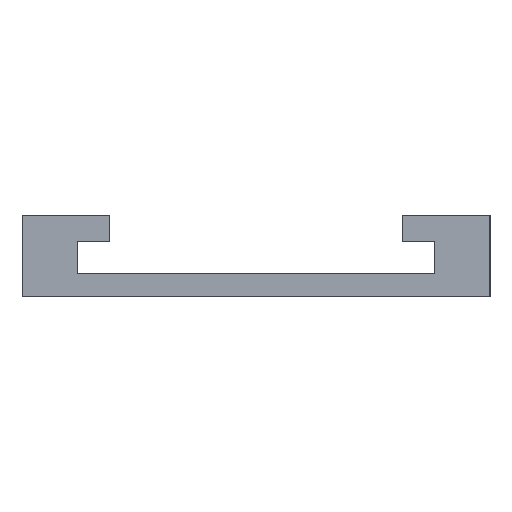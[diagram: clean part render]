
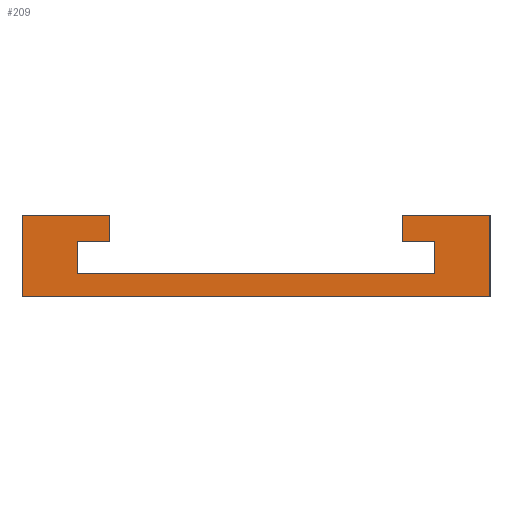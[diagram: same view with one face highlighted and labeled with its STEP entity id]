
A CAD part, left-side view. The second image highlights one B-rep face of the part: STEP entity #209.
In plain terms, the highlighted planar face has unit normal (-1, 0, 0).
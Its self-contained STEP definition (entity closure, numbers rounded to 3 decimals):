
#3 = VECTOR ( 'NONE', #466, 1000. ) ;
#4 = VECTOR ( 'NONE', #459, 1000. ) ;
#11 = DIRECTION ( 'NONE',  ( 0., 1., 0. ) ) ;
#26 = ORIENTED_EDGE ( 'NONE', *, *, #54, .F. ) ;
#27 = CARTESIAN_POINT ( 'NONE',  ( 0., 40., 0. ) ) ;
#39 = CARTESIAN_POINT ( 'NONE',  ( 0., -40., 0. ) ) ;
#54 = EDGE_CURVE ( 'NONE', #286, #135, #377, .T. ) ;
#59 = CARTESIAN_POINT ( 'NONE',  ( 0., -30.5, 4. ) ) ;
#64 = CARTESIAN_POINT ( 'NONE',  ( 0., 30.5, 9.5 ) ) ;
#73 = VERTEX_POINT ( 'NONE', #244 ) ;
#77 = CARTESIAN_POINT ( 'NONE',  ( 0., -40., 14. ) ) ;
#80 = AXIS2_PLACEMENT_3D ( 'NONE', #359, #392, #425 ) ;
#93 = LINE ( 'NONE', #216, #458 ) ;
#99 = LINE ( 'NONE', #180, #338 ) ;
#101 = DIRECTION ( 'NONE',  ( 0., 0., 1. ) ) ;
#104 = EDGE_CURVE ( 'NONE', #256, #286, #99, .T. ) ;
#108 = ORIENTED_EDGE ( 'NONE', *, *, #332, .F. ) ;
#112 = LINE ( 'NONE', #367, #355 ) ;
#120 = ORIENTED_EDGE ( 'NONE', *, *, #430, .F. ) ;
#124 = CARTESIAN_POINT ( 'NONE',  ( 0., 40., 14. ) ) ;
#125 = CARTESIAN_POINT ( 'NONE',  ( 0., -40., 0. ) ) ;
#135 = VERTEX_POINT ( 'NONE', #313 ) ;
#144 = CARTESIAN_POINT ( 'NONE',  ( 0., -25., 14. ) ) ;
#150 = VERTEX_POINT ( 'NONE', #144 ) ;
#152 = VECTOR ( 'NONE', #101, 1000. ) ;
#155 = CARTESIAN_POINT ( 'NONE',  ( 0., 40., 0. ) ) ;
#157 = CARTESIAN_POINT ( 'NONE',  ( 0., -25., 14. ) ) ;
#159 = CARTESIAN_POINT ( 'NONE',  ( 0., -30.5, 9.5 ) ) ;
#160 = EDGE_LOOP ( 'NONE', ( #306, #442, #108, #448, #217, #399, #26, #174, #333, #429, #120, #413 ) ) ;
#162 = VERTEX_POINT ( 'NONE', #248 ) ;
#174 = ORIENTED_EDGE ( 'NONE', *, *, #104, .F. ) ;
#177 = CARTESIAN_POINT ( 'NONE',  ( 0., 40., 14. ) ) ;
#178 = VERTEX_POINT ( 'NONE', #64 ) ;
#180 = CARTESIAN_POINT ( 'NONE',  ( 0., 30.5, 4. ) ) ;
#185 = EDGE_CURVE ( 'NONE', #357, #353, #363, .T. ) ;
#188 = DIRECTION ( 'NONE',  ( 0., 0., -1. ) ) ;
#190 = LINE ( 'NONE', #177, #4 ) ;
#192 = DIRECTION ( 'NONE',  ( 0., -1., 0. ) ) ;
#196 = LINE ( 'NONE', #268, #435 ) ;
#198 = VECTOR ( 'NONE', #207, 1000. ) ;
#204 = EDGE_CURVE ( 'NONE', #353, #73, #190, .T. ) ;
#207 = DIRECTION ( 'NONE',  ( 0., 0., 1. ) ) ;
#208 = LINE ( 'NONE', #226, #3 ) ;
#209 = ADVANCED_FACE ( 'NONE', ( #383 ), #309, .F. ) ;
#214 = EDGE_CURVE ( 'NONE', #162, #178, #93, .T. ) ;
#216 = CARTESIAN_POINT ( 'NONE',  ( 0., 25., 9.5 ) ) ;
#217 = ORIENTED_EDGE ( 'NONE', *, *, #314, .F. ) ;
#226 = CARTESIAN_POINT ( 'NONE',  ( 0., 30.5, 9.5 ) ) ;
#244 = CARTESIAN_POINT ( 'NONE',  ( 0., 25., 14. ) ) ;
#246 = VERTEX_POINT ( 'NONE', #465 ) ;
#248 = CARTESIAN_POINT ( 'NONE',  ( 0., 25., 9.5 ) ) ;
#250 = DIRECTION ( 'NONE',  ( 0., -1., 0. ) ) ;
#251 = EDGE_CURVE ( 'NONE', #419, #357, #263, .T. ) ;
#256 = VERTEX_POINT ( 'NONE', #396 ) ;
#258 = VERTEX_POINT ( 'NONE', #77 ) ;
#260 = CARTESIAN_POINT ( 'NONE',  ( 0., -30.5, 4. ) ) ;
#261 = DIRECTION ( 'NONE',  ( 0., 1., 0. ) ) ;
#263 = LINE ( 'NONE', #39, #457 ) ;
#265 = CARTESIAN_POINT ( 'NONE',  ( 0., 25., 14. ) ) ;
#268 = CARTESIAN_POINT ( 'NONE',  ( 0., -40., 14. ) ) ;
#286 = VERTEX_POINT ( 'NONE', #260 ) ;
#294 = EDGE_CURVE ( 'NONE', #178, #256, #208, .T. ) ;
#306 = ORIENTED_EDGE ( 'NONE', *, *, #185, .F. ) ;
#309 = PLANE ( 'NONE',  #80 ) ;
#313 = CARTESIAN_POINT ( 'NONE',  ( 0., -30.5, 9.5 ) ) ;
#314 = EDGE_CURVE ( 'NONE', #246, #150, #112, .T. ) ;
#322 = VECTOR ( 'NONE', #11, 1000. ) ;
#331 = DIRECTION ( 'NONE',  ( 0., 0., -1. ) ) ;
#332 = EDGE_CURVE ( 'NONE', #258, #419, #196, .T. ) ;
#333 = ORIENTED_EDGE ( 'NONE', *, *, #294, .F. ) ;
#338 = VECTOR ( 'NONE', #250, 1000. ) ;
#342 = VECTOR ( 'NONE', #192, 1000. ) ;
#353 = VERTEX_POINT ( 'NONE', #124 ) ;
#355 = VECTOR ( 'NONE', #434, 1000. ) ;
#357 = VERTEX_POINT ( 'NONE', #155 ) ;
#359 = CARTESIAN_POINT ( 'NONE',  ( 0., 0., 0. ) ) ;
#363 = LINE ( 'NONE', #27, #152 ) ;
#367 = CARTESIAN_POINT ( 'NONE',  ( 0., -25., 9.5 ) ) ;
#368 = LINE ( 'NONE', #265, #382 ) ;
#377 = LINE ( 'NONE', #59, #198 ) ;
#382 = VECTOR ( 'NONE', #331, 1000. ) ;
#383 = FACE_OUTER_BOUND ( 'NONE', #160, .T. ) ;
#392 = DIRECTION ( 'NONE',  ( 1., 0., 0. ) ) ;
#396 = CARTESIAN_POINT ( 'NONE',  ( 0., 30.5, 4. ) ) ;
#399 = ORIENTED_EDGE ( 'NONE', *, *, #455, .F. ) ;
#404 = LINE ( 'NONE', #157, #342 ) ;
#409 = EDGE_CURVE ( 'NONE', #150, #258, #404, .T. ) ;
#412 = LINE ( 'NONE', #159, #322 ) ;
#413 = ORIENTED_EDGE ( 'NONE', *, *, #204, .F. ) ;
#419 = VERTEX_POINT ( 'NONE', #125 ) ;
#425 = DIRECTION ( 'NONE',  ( 0., 0., -1. ) ) ;
#429 = ORIENTED_EDGE ( 'NONE', *, *, #214, .F. ) ;
#430 = EDGE_CURVE ( 'NONE', #73, #162, #368, .T. ) ;
#434 = DIRECTION ( 'NONE',  ( 0., 0., 1. ) ) ;
#435 = VECTOR ( 'NONE', #188, 1000. ) ;
#442 = ORIENTED_EDGE ( 'NONE', *, *, #251, .F. ) ;
#448 = ORIENTED_EDGE ( 'NONE', *, *, #409, .F. ) ;
#455 = EDGE_CURVE ( 'NONE', #135, #246, #412, .T. ) ;
#456 = DIRECTION ( 'NONE',  ( 0., 1., 0. ) ) ;
#457 = VECTOR ( 'NONE', #261, 1000. ) ;
#458 = VECTOR ( 'NONE', #456, 1000. ) ;
#459 = DIRECTION ( 'NONE',  ( 0., -1., 0. ) ) ;
#465 = CARTESIAN_POINT ( 'NONE',  ( 0., -25., 9.5 ) ) ;
#466 = DIRECTION ( 'NONE',  ( 0., 0., -1. ) ) ;
